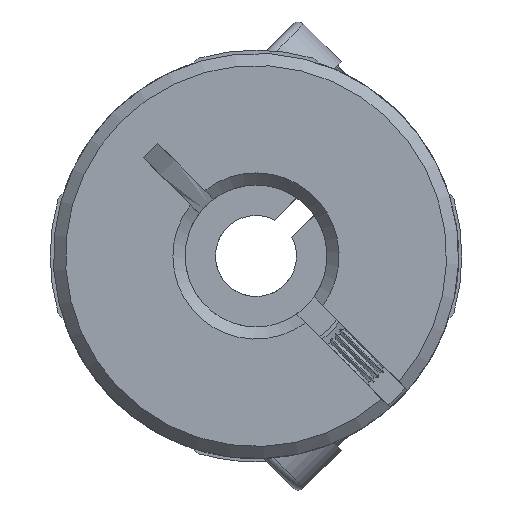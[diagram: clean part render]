
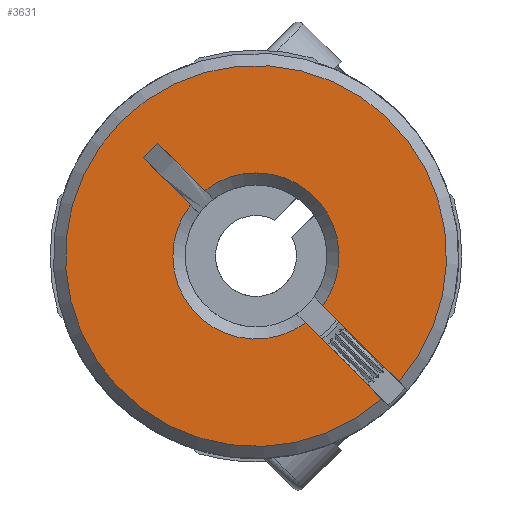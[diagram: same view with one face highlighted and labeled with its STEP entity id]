
A CAD part, front view. The second image highlights one B-rep face of the part: STEP entity #3631.
In plain terms, the highlighted planar face has unit normal (0, -1, 0).
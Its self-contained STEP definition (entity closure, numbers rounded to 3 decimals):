
#34 = DIRECTION ( 'NONE',  ( -0.707, 0., -0.707 ) ) ;
#427 = VECTOR ( 'NONE', #445, 1000. ) ;
#445 = DIRECTION ( 'NONE',  ( 0.707, 0., -0.707 ) ) ;
#996 = ORIENTED_EDGE ( 'NONE', *, *, #11250, .F. ) ;
#1104 = CARTESIAN_POINT ( 'NONE',  ( 0., -12.6, 0. ) ) ;
#1274 = VERTEX_POINT ( 'NONE', #4072 ) ;
#1334 = CARTESIAN_POINT ( 'NONE',  ( -4.842, -12.6, 5.549 ) ) ;
#1768 = AXIS2_PLACEMENT_3D ( 'NONE', #5891, #8894, #2841 ) ;
#2106 = CARTESIAN_POINT ( 'NONE',  ( 0., -12.6, 0. ) ) ;
#2215 = EDGE_CURVE ( 'NONE', #3040, #3458, #7848, .T. ) ;
#2283 = ORIENTED_EDGE ( 'NONE', *, *, #2215, .F. ) ;
#2309 = DIRECTION ( 'NONE',  ( 0.707, 0., -0.707 ) ) ;
#2354 = CARTESIAN_POINT ( 'NONE',  ( 5.657, -12.6, -4.95 ) ) ;
#2753 = CARTESIAN_POINT ( 'NONE',  ( -4.842, -12.6, 5.549 ) ) ;
#2841 = DIRECTION ( 'NONE',  ( 0.707, 0., -0.707 ) ) ;
#2902 = ORIENTED_EDGE ( 'NONE', *, *, #4829, .T. ) ;
#3040 = VERTEX_POINT ( 'NONE', #4766 ) ;
#3217 = CARTESIAN_POINT ( 'NONE',  ( 2.863, -12.6, -2.014 ) ) ;
#3458 = VERTEX_POINT ( 'NONE', #6115 ) ;
#3532 = DIRECTION ( 'NONE',  ( 0.707, 0., -0.707 ) ) ;
#3631 = ADVANCED_FACE ( 'NONE', ( #8975 ), #11968, .F. ) ;
#4042 = VERTEX_POINT ( 'NONE', #9188 ) ;
#4072 = CARTESIAN_POINT ( 'NONE',  ( -5.549, -12.6, 4.842 ) ) ;
#4113 = AXIS2_PLACEMENT_3D ( 'NONE', #2106, #4139, #12396 ) ;
#4139 = DIRECTION ( 'NONE',  ( 0., 1., 0. ) ) ;
#4177 = ORIENTED_EDGE ( 'NONE', *, *, #8242, .T. ) ;
#4199 = EDGE_CURVE ( 'NONE', #3040, #5053, #5957, .T. ) ;
#4213 = VECTOR ( 'NONE', #8286, 1000. ) ;
#4749 = VERTEX_POINT ( 'NONE', #1334 ) ;
#4766 = CARTESIAN_POINT ( 'NONE',  ( 7.058, -12.6, -6.209 ) ) ;
#4829 = EDGE_CURVE ( 'NONE', #4042, #7649, #7673, .T. ) ;
#5053 = VERTEX_POINT ( 'NONE', #7560 ) ;
#5200 = CIRCLE ( 'NONE', #4113, 4.1 ) ;
#5479 = CARTESIAN_POINT ( 'NONE',  ( 0., -12.6, 0. ) ) ;
#5593 = VECTOR ( 'NONE', #34, 1000. ) ;
#5663 = EDGE_CURVE ( 'NONE', #4042, #5053, #5776, .T. ) ;
#5776 = LINE ( 'NONE', #7423, #427 ) ;
#5888 = LINE ( 'NONE', #2354, #9685 ) ;
#5891 = CARTESIAN_POINT ( 'NONE',  ( 342.528, -12.6, 364.579 ) ) ;
#5957 = CIRCLE ( 'NONE', #6178, 9.4 ) ;
#6115 = CARTESIAN_POINT ( 'NONE',  ( 3.292, -12.6, -2.444 ) ) ;
#6178 = AXIS2_PLACEMENT_3D ( 'NONE', #5479, #6633, #3532 ) ;
#6280 = AXIS2_PLACEMENT_3D ( 'NONE', #1104, #8091, #7291 ) ;
#6324 = ORIENTED_EDGE ( 'NONE', *, *, #9853, .F. ) ;
#6633 = DIRECTION ( 'NONE',  ( 0., -1., 0. ) ) ;
#6885 = ORIENTED_EDGE ( 'NONE', *, *, #10052, .T. ) ;
#7291 = DIRECTION ( 'NONE',  ( 0.707, 0., -0.707 ) ) ;
#7317 = DIRECTION ( 'NONE',  ( 0.707, 0., -0.707 ) ) ;
#7423 = CARTESIAN_POINT ( 'NONE',  ( 2.014, -12.6, -2.863 ) ) ;
#7560 = CARTESIAN_POINT ( 'NONE',  ( 6.209, -12.6, -7.058 ) ) ;
#7649 = VERTEX_POINT ( 'NONE', #8323 ) ;
#7666 = CARTESIAN_POINT ( 'NONE',  ( -2.524, -12.6, 3.231 ) ) ;
#7673 = CIRCLE ( 'NONE', #6280, 4.1 ) ;
#7848 = LINE ( 'NONE', #3217, #4213 ) ;
#7968 = ORIENTED_EDGE ( 'NONE', *, *, #5663, .F. ) ;
#8091 = DIRECTION ( 'NONE',  ( 0., 1., 0. ) ) ;
#8170 = CARTESIAN_POINT ( 'NONE',  ( 4.95, -12.6, -5.657 ) ) ;
#8204 = LINE ( 'NONE', #8170, #10114 ) ;
#8242 = EDGE_CURVE ( 'NONE', #4749, #10502, #5888, .T. ) ;
#8286 = DIRECTION ( 'NONE',  ( -0.707, 0., 0.707 ) ) ;
#8323 = CARTESIAN_POINT ( 'NONE',  ( -3.231, -12.6, 2.524 ) ) ;
#8894 = DIRECTION ( 'NONE',  ( 0., 1., 0. ) ) ;
#8975 = FACE_OUTER_BOUND ( 'NONE', #10226, .T. ) ;
#9188 = CARTESIAN_POINT ( 'NONE',  ( 2.444, -12.6, -3.292 ) ) ;
#9685 = VECTOR ( 'NONE', #2309, 1000. ) ;
#9853 = EDGE_CURVE ( 'NONE', #1274, #7649, #8204, .T. ) ;
#10052 = EDGE_CURVE ( 'NONE', #10502, #3458, #5200, .T. ) ;
#10114 = VECTOR ( 'NONE', #7317, 1000. ) ;
#10226 = EDGE_LOOP ( 'NONE', ( #4177, #6885, #2283, #11038, #7968, #2902, #6324, #996 ) ) ;
#10502 = VERTEX_POINT ( 'NONE', #7666 ) ;
#11038 = ORIENTED_EDGE ( 'NONE', *, *, #4199, .T. ) ;
#11250 = EDGE_CURVE ( 'NONE', #4749, #1274, #12413, .T. ) ;
#11968 = PLANE ( 'NONE',  #1768 ) ;
#12396 = DIRECTION ( 'NONE',  ( 0.707, 0., -0.707 ) ) ;
#12413 = LINE ( 'NONE', #2753, #5593 ) ;
